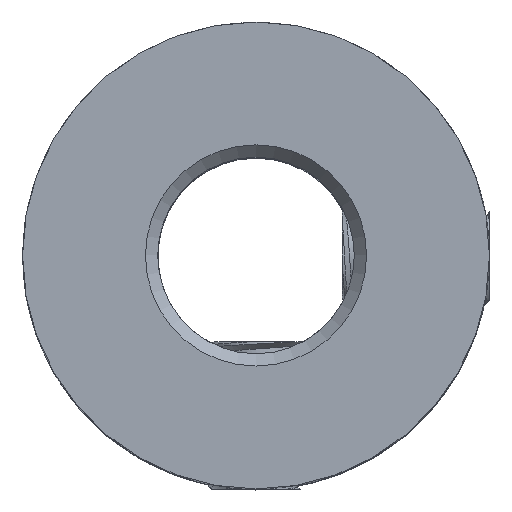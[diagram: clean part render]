
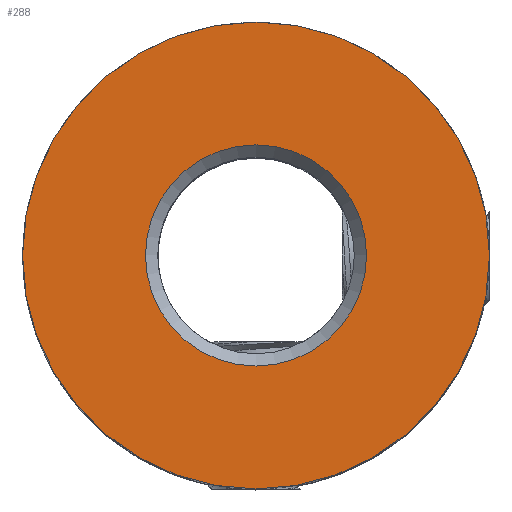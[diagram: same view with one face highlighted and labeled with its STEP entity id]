
A CAD part, top view. The second image highlights one B-rep face of the part: STEP entity #288.
In plain terms, the highlighted planar face has unit normal (0, 0, 1).
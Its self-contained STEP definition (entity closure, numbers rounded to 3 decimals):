
#288=ADVANCED_FACE('',(#530,#531),#379,.T.);
#379=PLANE('',#1729);
#433=CIRCLE('',#1720,9.5);
#437=CIRCLE('',#1728,4.5);
#530=FACE_BOUND('',#595,.T.);
#531=FACE_BOUND('',#596,.T.);
#595=EDGE_LOOP('',(#796));
#596=EDGE_LOOP('',(#797));
#796=ORIENTED_EDGE('',*,*,#1309,.T.);
#797=ORIENTED_EDGE('',*,*,#1297,.F.);
#1142=VERTEX_POINT('',#5242);
#1154=VERTEX_POINT('',#5638);
#1297=EDGE_CURVE('',#1142,#1142,#433,.T.);
#1309=EDGE_CURVE('',#1154,#1154,#437,.T.);
#1720=AXIS2_PLACEMENT_3D('',#5241,#1891,#1892);
#1728=AXIS2_PLACEMENT_3D('',#5637,#1907,#1908);
#1729=AXIS2_PLACEMENT_3D('',#5639,#1909,#1910);
#1891=DIRECTION('',(0.,0.,-1.));
#1892=DIRECTION('',(1.,0.,0.));
#1907=DIRECTION('',(0.,0.,-1.));
#1908=DIRECTION('',(1.,0.,0.));
#1909=DIRECTION('',(0.,0.,1.));
#1910=DIRECTION('',(1.,0.,0.));
#5241=CARTESIAN_POINT('',(0.,0.,25.));
#5242=CARTESIAN_POINT('',(9.5,0.,25.));
#5637=CARTESIAN_POINT('',(0.,0.,25.));
#5638=CARTESIAN_POINT('',(4.5,0.,25.));
#5639=CARTESIAN_POINT('',(0.,0.,25.));
